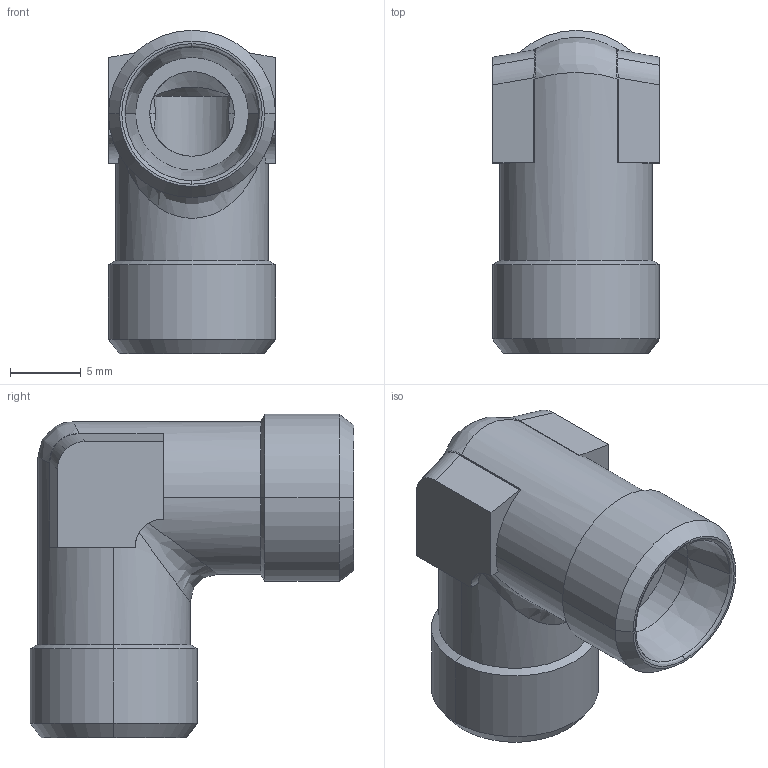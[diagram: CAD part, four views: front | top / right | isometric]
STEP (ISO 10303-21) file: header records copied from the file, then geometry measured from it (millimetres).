
FILE_DESCRIPTION((''),'2;1');
FILE_NAME('103803.stp','2007-10-31T11:54:21',(''),(''),'AutoCAD STEP 2000i','AutoCAD 2000i',', , ');
FILE_SCHEMA(('CONFIG_CONTROL_DESIGN'));
Length unit declared in the file: millimetre
Products named in the file (2): 103803.0; 1090#0
Assembly tree (1 placements, depth 2):
  103803.0
    1090#0
Bounding box: 11.85 x 22.93 x 22.93 mm (x, y, z)
Volume: 2170 mm3; surface area: 2087.6 mm2
Topology: 1 solids, 1 shells, 88 faces, 206 edges, 122 vertices
Faces by surface type: cylinder 40, cone 22, plane 14, bspline 12
Entity records: 3435 total; most frequent: CARTESIAN_POINT 1337, DIRECTION 434, ORIENTED_EDGE 412, EDGE_CURVE 206, AXIS2_PLACEMENT_3D 181, VERTEX_POINT 122, EDGE_LOOP 92, CIRCLE 88
